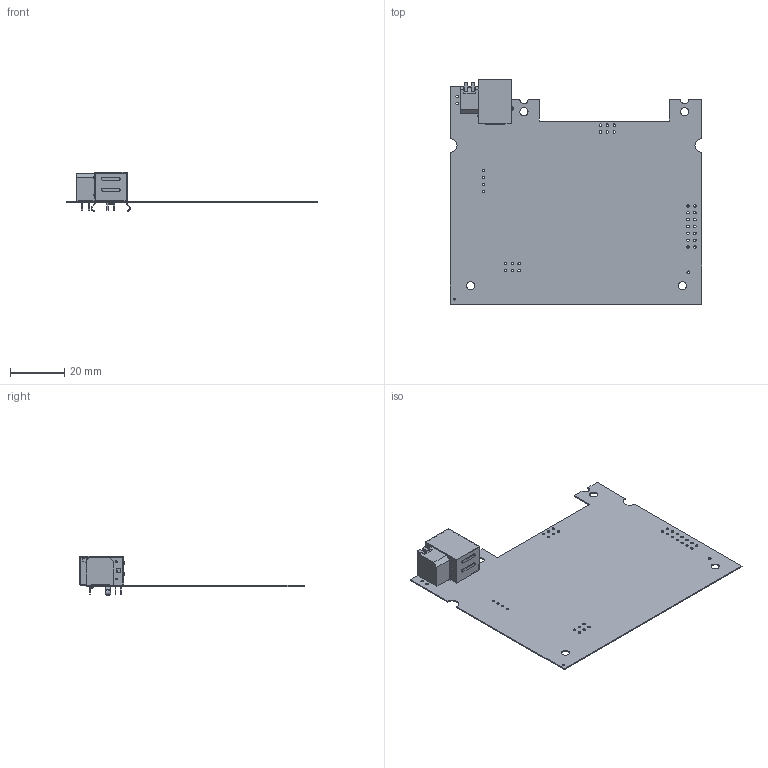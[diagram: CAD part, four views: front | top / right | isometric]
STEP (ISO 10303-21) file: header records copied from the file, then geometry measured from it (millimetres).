
FILE_DESCRIPTION (( 'STEP AP214' ), '1' );
FILE_NAME ('VASEBRIDGE5_3.STEP', '2024-04-26T19:54:42', ( '' ), ( '' ), 'SwSTEP 2.0', 'SolidWorks 2021', '' );
FILE_SCHEMA (( 'AUTOMOTIVE_DESIGN' ));
Length unit declared in the file: metre
Products named in the file (14): USB-B-S-B-TH_B.step; Free-Models.step; USB-B-S-TH_P.step; Open CASCADE STEP translator 7.5 3.1.1.step; NDPL02V--3DModel-STEP-56544.step; VASEBRIDGE5_3; Board.step; pin^NDP xxxxx.step; USB-B-S-F-B-TH.step; USB-B-S-TH_S.step; VASEBRIDGE5_3.step; LED 0606 bi-color.step; sw.step; NDP body_2.step
Assembly tree (15 placements, depth 5):
  VASEBRIDGE5_3
    VASEBRIDGE5_3.step
      Board.step
        Open CASCADE STEP translator 7.5 3.1.1.step
      Free-Models.step
        NDPL02V--3DModel-STEP-56544.step
          NDP body_2.step
          sw.step  x2
          pin^NDP xxxxx.step  x2
        USB-B-S-F-B-TH.step
          USB-B-S-TH_S.step
          USB-B-S-B-TH_B.step
          USB-B-S-TH_P.step
        LED 0606 bi-color.step
Bounding box: 92.71 x 82.7 x 14.44 mm (x, y, z)
Volume: 4865.8 mm3; surface area: 17452.3 mm2
Topology: 19 solids, 19 shells, 665 faces, 1818 edges, 1210 vertices
Faces by surface type: plane 474, cylinder 169, bspline 14, sphere 8
Entity records: 21022 total; most frequent: CARTESIAN_POINT 4366, ORIENTED_EDGE 3516, DIRECTION 3060, EDGE_CURVE 1758, VERTEX_POINT 1170, LINE 1096, VECTOR 1096, AXIS2_PLACEMENT_3D 982
